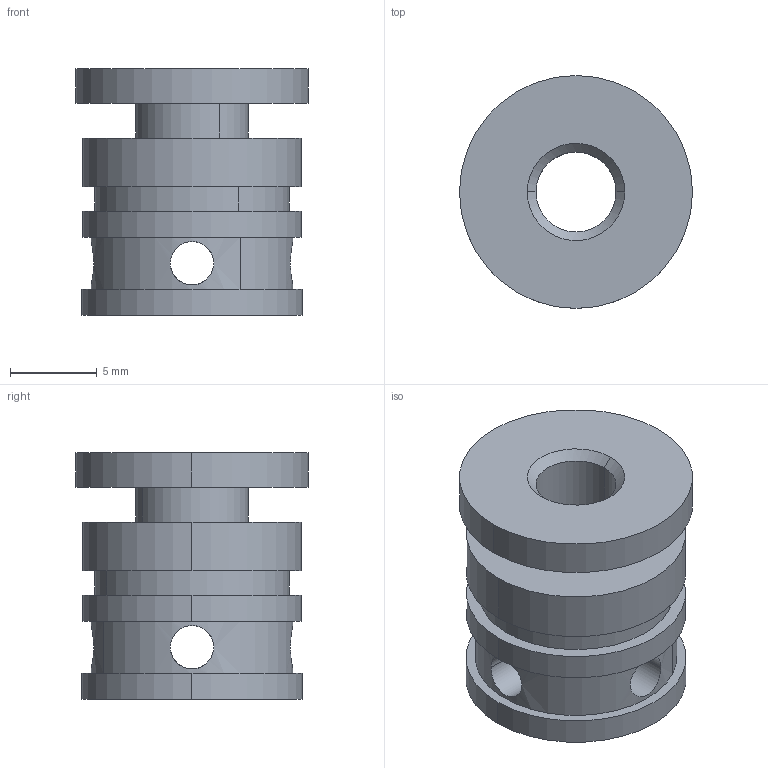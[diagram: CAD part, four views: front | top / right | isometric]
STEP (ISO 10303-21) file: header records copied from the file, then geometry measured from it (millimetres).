
FILE_DESCRIPTION(('CATIA V5 STEP Exchange'),'2;1');
FILE_NAME('C:\Users\Administrator\Desktop\LS42.10_V1 端盖B.stp','2020-04-01T10:22:54+00:00',('none'),('none'),'CATIA Version 5 Release 21 GA (IN-10)','CATIA V5 STEP AP214','none');
FILE_SCHEMA(('AUTOMOTIVE_DESIGN { 1 0 10303 214 1 1 1 1 }'));
Length unit declared in the file: millimetre
Products named in the file (1): Copy (1) of 端盖
Bounding box: 13.4 x 13.4 x 14.2 mm (x, y, z)
Volume: 1056.7 mm3; surface area: 1382.2 mm2
Topology: 1 solids, 1 shells, 45 faces, 104 edges, 68 vertices
Faces by surface type: cylinder 30, plane 11, cone 4
Entity records: 1340 total; most frequent: CARTESIAN_POINT 378, ORIENTED_EDGE 208, DIRECTION 140, EDGE_CURVE 104, AXIS2_PLACEMENT_3D 76, VERTEX_POINT 68, EDGE_LOOP 62, CIRCLE 46
